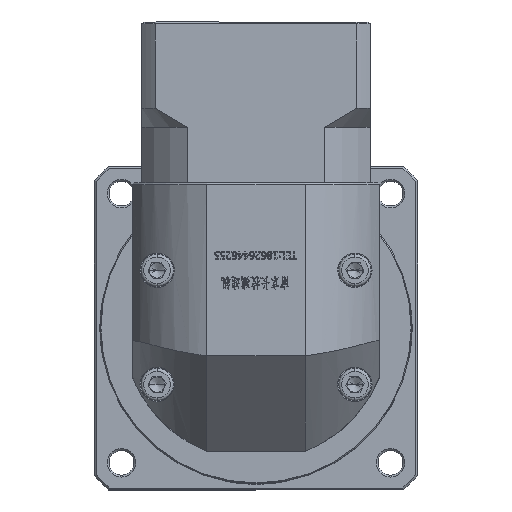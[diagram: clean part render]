
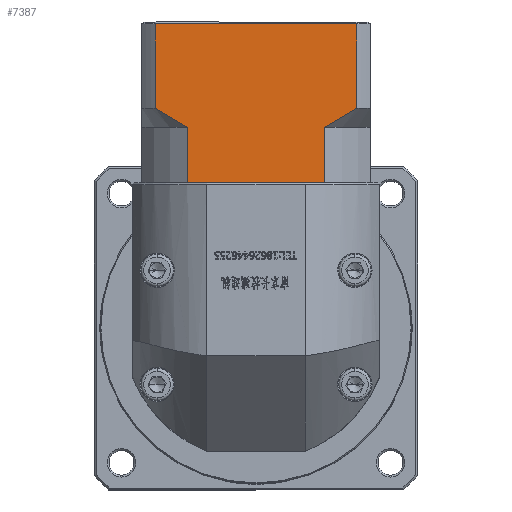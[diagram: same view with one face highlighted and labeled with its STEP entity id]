
A CAD part, top view. The second image highlights one B-rep face of the part: STEP entity #7387.
In plain terms, the highlighted planar face has unit normal (0, 0, 1).
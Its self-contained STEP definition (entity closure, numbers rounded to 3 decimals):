
#992 = ORIENTED_EDGE ( 'NONE', *, *, #156165, .T. ) ;
#2076 = ORIENTED_EDGE ( 'NONE', *, *, #85819, .T. ) ;
#4075 = DIRECTION ( 'NONE',  ( 1., 0., 0. ) ) ;
#7387 = ADVANCED_FACE ( 'NONE', ( #102052 ), #63124, .F. ) ;
#7485 = ORIENTED_EDGE ( 'NONE', *, *, #128587, .F. ) ;
#8055 = DIRECTION ( 'NONE',  ( 1., 0., 0. ) ) ;
#8913 = CARTESIAN_POINT ( 'NONE',  ( -129.124, 78.217, 111.858 ) ) ;
#9236 = LINE ( 'NONE', #117616, #41111 ) ;
#11221 = EDGE_CURVE ( 'NONE', #78781, #89554, #9236, .T. ) ;
#12187 = CARTESIAN_POINT ( 'NONE',  ( -81.755, 103.866, 111.858 ) ) ;
#16015 = VECTOR ( 'NONE', #140973, 1000. ) ;
#17774 = EDGE_CURVE ( 'NONE', #96015, #163842, #28575, .T. ) ;
#19425 = CARTESIAN_POINT ( 'NONE',  ( -87.303, 78.216, 111.858 ) ) ;
#22574 = CARTESIAN_POINT ( 'NONE',  ( -126.24, 76.666, 111.858 ) ) ;
#26778 = LINE ( 'NONE', #159836, #94871 ) ;
#27578 = VERTEX_POINT ( 'NONE', #96661 ) ;
#27638 = VERTEX_POINT ( 'NONE', #99057 ) ;
#28575 = B_SPLINE_CURVE_WITH_KNOTS ( 'NONE', 3,
 ( #76102, #90371, #171643, #8913, #104070, #22574 ),
 .UNSPECIFIED., .F., .F.,
 ( 4, 2, 4 ),
 ( 0.052, 0.057, 0.062 ),
 .UNSPECIFIED. ) ;
#32299 = CARTESIAN_POINT ( 'NONE',  ( -138.212, 62.166, 111.858 ) ) ;
#32870 = AXIS2_PLACEMENT_3D ( 'NONE', #131316, #50026, #145034 ) ;
#33053 = CARTESIAN_POINT ( 'NONE',  ( -83.118, 80.764, 111.858 ) ) ;
#38061 = VERTEX_POINT ( 'NONE', #137153 ) ;
#41111 = VECTOR ( 'NONE', #49957, 1000. ) ;
#42203 = ORIENTED_EDGE ( 'NONE', *, *, #151920, .F. ) ;
#44397 = LINE ( 'NONE', #89517, #116627 ) ;
#49049 = VECTOR ( 'NONE', #4075, 1000. ) ;
#49914 = CARTESIAN_POINT ( 'NONE',  ( -81.755, 81.666, 111.858 ) ) ;
#49957 = DIRECTION ( 'NONE',  ( 0., -1., 0. ) ) ;
#50026 = DIRECTION ( 'NONE',  ( 0., 0., -1. ) ) ;
#57542 = VERTEX_POINT ( 'NONE', #165182 ) ;
#59376 = CARTESIAN_POINT ( 'NONE',  ( -134.67, 81.666, 111.858 ) ) ;
#62256 = EDGE_CURVE ( 'NONE', #174210, #138427, #125551, .T. ) ;
#63124 = PLANE ( 'NONE',  #32870 ) ;
#65449 = CARTESIAN_POINT ( 'NONE',  ( -126.24, 76.666, 111.858 ) ) ;
#69605 = VECTOR ( 'NONE', #160416, 1000. ) ;
#73468 = CARTESIAN_POINT ( 'NONE',  ( -88.728, 77.416, 111.858 ) ) ;
#76102 = CARTESIAN_POINT ( 'NONE',  ( -134.67, 81.666, 111.858 ) ) ;
#78781 = VERTEX_POINT ( 'NONE', #93103 ) ;
#85509 = CARTESIAN_POINT ( 'NONE',  ( -138.212, 62.166, 111.858 ) ) ;
#85819 = EDGE_CURVE ( 'NONE', #27578, #89554, #153160, .T. ) ;
#89517 = CARTESIAN_POINT ( 'NONE',  ( -138.212, 62.166, 111.858 ) ) ;
#89554 = VERTEX_POINT ( 'NONE', #96175 ) ;
#90371 = CARTESIAN_POINT ( 'NONE',  ( -133.31, 80.766, 111.858 ) ) ;
#92020 = EDGE_LOOP ( 'NONE', ( #144870, #151941, #7485, #144288, #42203, #992, #167984, #2076, #101332, #128726 ) ) ;
#93103 = CARTESIAN_POINT ( 'NONE',  ( -90.185, 76.666, 111.858 ) ) ;
#94012 = EDGE_CURVE ( 'NONE', #27638, #27578, #44397, .T. ) ;
#94871 = VECTOR ( 'NONE', #106430, 1000. ) ;
#96015 = VERTEX_POINT ( 'NONE', #59376 ) ;
#96175 = CARTESIAN_POINT ( 'NONE',  ( -90.185, 62.166, 111.858 ) ) ;
#96661 = CARTESIAN_POINT ( 'NONE',  ( -91.176, 62.166, 111.858 ) ) ;
#98229 = CARTESIAN_POINT ( 'NONE',  ( -134.67, 76.666, 111.858 ) ) ;
#99057 = CARTESIAN_POINT ( 'NONE',  ( -125.249, 62.166, 111.858 ) ) ;
#101332 = ORIENTED_EDGE ( 'NONE', *, *, #11221, .F. ) ;
#102052 = FACE_OUTER_BOUND ( 'NONE', #92020, .T. ) ;
#104070 = CARTESIAN_POINT ( 'NONE',  ( -127.692, 77.413, 111.858 ) ) ;
#105721 = LINE ( 'NONE', #65449, #69605 ) ;
#106430 = DIRECTION ( 'NONE',  ( -1., 0., 0. ) ) ;
#106657 = B_SPLINE_CURVE_WITH_KNOTS ( 'NONE', 3,
 ( #154215, #73468, #19425, #114426, #33053, #128060 ),
 .UNSPECIFIED., .F., .F.,
 ( 4, 2, 4 ),
 ( 0.1, 0.104, 0.109 ),
 .UNSPECIFIED. ) ;
#111858 = DIRECTION ( 'NONE',  ( 0., 1., 0. ) ) ;
#114426 = CARTESIAN_POINT ( 'NONE',  ( -84.497, 79.89, 111.858 ) ) ;
#115211 = CARTESIAN_POINT ( 'NONE',  ( -81.755, 76.666, 111.858 ) ) ;
#116627 = VECTOR ( 'NONE', #8055, 1000. ) ;
#117616 = CARTESIAN_POINT ( 'NONE',  ( -90.185, 76.666, 111.858 ) ) ;
#124383 = LINE ( 'NONE', #32299, #16015 ) ;
#125551 = LINE ( 'NONE', #115211, #161697 ) ;
#128060 = CARTESIAN_POINT ( 'NONE',  ( -81.755, 81.666, 111.858 ) ) ;
#128587 = EDGE_CURVE ( 'NONE', #96015, #57542, #146916, .T. ) ;
#128726 = ORIENTED_EDGE ( 'NONE', *, *, #149940, .T. ) ;
#130139 = EDGE_CURVE ( 'NONE', #174210, #57542, #26778, .T. ) ;
#131316 = CARTESIAN_POINT ( 'NONE',  ( -138.212, 104.366, 111.858 ) ) ;
#137153 = CARTESIAN_POINT ( 'NONE',  ( -126.24, 62.166, 111.858 ) ) ;
#138427 = VERTEX_POINT ( 'NONE', #49914 ) ;
#140973 = DIRECTION ( 'NONE',  ( 1., 0., 0. ) ) ;
#141971 = DIRECTION ( 'NONE',  ( 0., -1., 0. ) ) ;
#142704 = VECTOR ( 'NONE', #111858, 1000. ) ;
#144288 = ORIENTED_EDGE ( 'NONE', *, *, #17774, .T. ) ;
#144870 = ORIENTED_EDGE ( 'NONE', *, *, #62256, .F. ) ;
#145034 = DIRECTION ( 'NONE',  ( 0., 1., 0. ) ) ;
#146916 = LINE ( 'NONE', #98229, #142704 ) ;
#149940 = EDGE_CURVE ( 'NONE', #78781, #138427, #106657, .T. ) ;
#151920 = EDGE_CURVE ( 'NONE', #38061, #163842, #105721, .T. ) ;
#151941 = ORIENTED_EDGE ( 'NONE', *, *, #130139, .T. ) ;
#153160 = LINE ( 'NONE', #85509, #49049 ) ;
#154215 = CARTESIAN_POINT ( 'NONE',  ( -90.185, 76.666, 111.858 ) ) ;
#156165 = EDGE_CURVE ( 'NONE', #38061, #27638, #124383, .T. ) ;
#159836 = CARTESIAN_POINT ( 'NONE',  ( -138.212, 103.866, 111.858 ) ) ;
#160416 = DIRECTION ( 'NONE',  ( 0., 1., 0. ) ) ;
#161697 = VECTOR ( 'NONE', #141971, 1000. ) ;
#163842 = VERTEX_POINT ( 'NONE', #175904 ) ;
#165182 = CARTESIAN_POINT ( 'NONE',  ( -134.67, 103.866, 111.858 ) ) ;
#167984 = ORIENTED_EDGE ( 'NONE', *, *, #94012, .T. ) ;
#171643 = CARTESIAN_POINT ( 'NONE',  ( -131.931, 79.893, 111.858 ) ) ;
#174210 = VERTEX_POINT ( 'NONE', #12187 ) ;
#175904 = CARTESIAN_POINT ( 'NONE',  ( -126.24, 76.666, 111.858 ) ) ;
